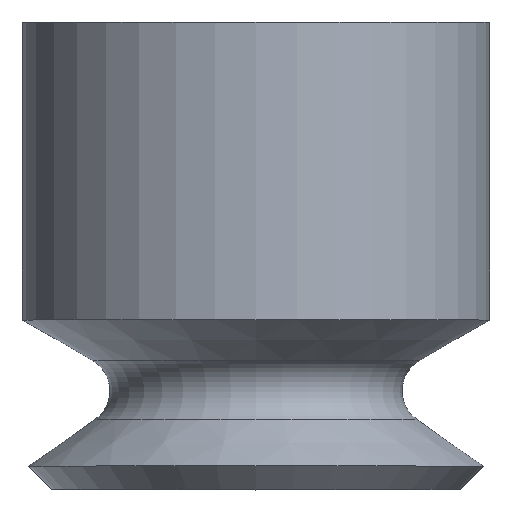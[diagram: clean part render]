
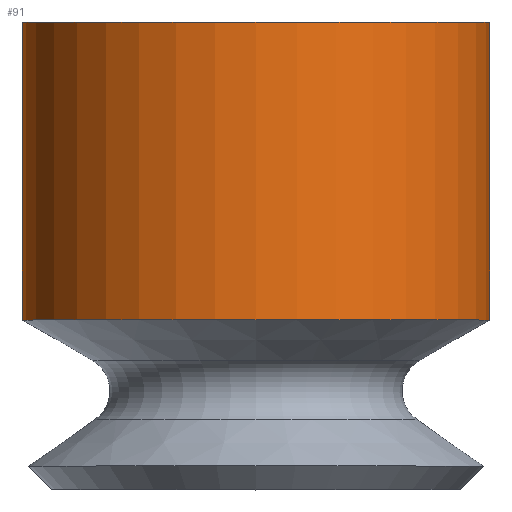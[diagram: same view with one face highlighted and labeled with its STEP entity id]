
A CAD part, top view. The second image highlights one B-rep face of the part: STEP entity #91.
In plain terms, the highlighted cylindrical face has radius 2 mm (diameter 4 mm), a full revolution.
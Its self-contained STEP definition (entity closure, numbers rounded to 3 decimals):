
#91=ADVANCED_FACE('',(#142,#143),#144,.T.);
#142=FACE_OUTER_BOUND('',#196,.T.);
#143=FACE_OUTER_BOUND('',#197,.T.);
#144=CYLINDRICAL_SURFACE('',#198,2.0);
#196=EDGE_LOOP('',(#316));
#197=EDGE_LOOP('',(#317));
#198=AXIS2_PLACEMENT_3D('',#318,#319,#320);
#316=ORIENTED_EDGE('',*,*,#331,.T.);
#317=ORIENTED_EDGE('',*,*,#335,.F.);
#318=CARTESIAN_POINT('',(0.0,0.0,0.0));
#319=DIRECTION('',(0.0,-1.0,0.));
#320=DIRECTION('',(0.0,0.,-1.0));
#331=EDGE_CURVE('',#357,#357,#358,.T.);
#335=EDGE_CURVE('',#365,#365,#366,.T.);
#357=VERTEX_POINT('',#393);
#358=CIRCLE('',#394,2.0);
#365=VERTEX_POINT('',#401);
#366=CIRCLE('',#402,2.0);
#393=CARTESIAN_POINT('',(2.0,10.5,0.));
#394=AXIS2_PLACEMENT_3D('',#437,#438,#439);
#401=CARTESIAN_POINT('',(2.0,7.951,0.));
#402=AXIS2_PLACEMENT_3D('',#449,#450,#451);
#437=CARTESIAN_POINT('',(0.0,10.5,0.));
#438=DIRECTION('',(0.0,-1.0,0.));
#439=DIRECTION('',(0.0,0.,-1.0));
#449=CARTESIAN_POINT('',(0.0,7.951,0.));
#450=DIRECTION('',(0.0,-1.0,0.));
#451=DIRECTION('',(0.0,0.,-1.0));
